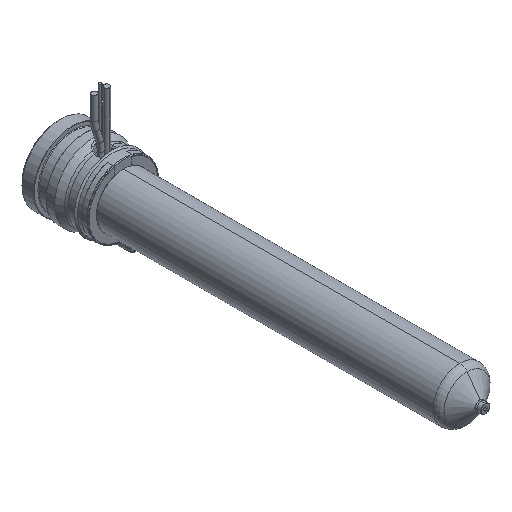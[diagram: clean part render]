
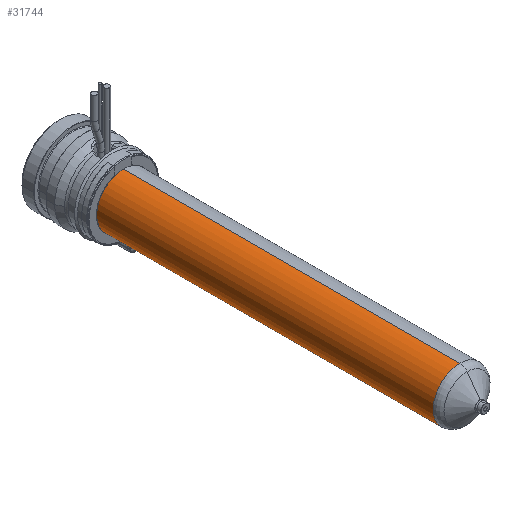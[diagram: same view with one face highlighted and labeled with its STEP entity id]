
A CAD part, isometric view. The second image highlights one B-rep face of the part: STEP entity #31744.
In plain terms, the highlighted cylindrical face has radius 9 mm (diameter 18 mm), a partial arc.
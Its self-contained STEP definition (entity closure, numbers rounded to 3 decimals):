
#31308=CARTESIAN_POINT('',(0.,-135.471,0.));
#31309=DIRECTION('',(0.,-1.,0.));
#31310=DIRECTION('',(0.,0.,1.));
#31311=AXIS2_PLACEMENT_3D('',#31308,#31309,#31310);
#31340=DIRECTION('',(0.,-1.,0.));
#31341=VECTOR('',#31340,113.471);
#31342=CARTESIAN_POINT('',(0.,-22.,9.));
#31343=LINE('',#31342,#31341);
#31355=DIRECTION('',(0.,-1.,0.));
#31356=VECTOR('',#31355,113.471);
#31357=CARTESIAN_POINT('',(0.,-22.,-9.));
#31358=LINE('',#31357,#31356);
#31362=CARTESIAN_POINT('',(0.,-22.,0.));
#31363=DIRECTION('',(0.,-1.,0.));
#31364=DIRECTION('',(0.,0.,1.));
#31365=AXIS2_PLACEMENT_3D('',#31362,#31363,#31364);
#31560=CARTESIAN_POINT('',(0.,-22.,9.));
#31561=CARTESIAN_POINT('',(0.,-135.471,9.));
#31562=VERTEX_POINT('',#31560);
#31563=VERTEX_POINT('',#31561);
#31572=CARTESIAN_POINT('',(0.,-22.,-9.));
#31573=CARTESIAN_POINT('',(0.,-135.471,-9.));
#31574=VERTEX_POINT('',#31572);
#31575=VERTEX_POINT('',#31573);
#31732=CARTESIAN_POINT('',(0.,-11.7,0.));
#31733=DIRECTION('',(0.,-1.,0.));
#31734=DIRECTION('',(0.,0.,1.));
#31735=AXIS2_PLACEMENT_3D('',#31732,#31733,#31734);
#31736=CYLINDRICAL_SURFACE('',#31735,9.);
#31737=ORIENTED_EDGE('',*,*,#31722,.T.);
#31738=ORIENTED_EDGE('',*,*,#31699,.T.);
#31739=ORIENTED_EDGE('',*,*,#31726,.F.);
#31741=ORIENTED_EDGE('',*,*,#31740,.F.);
#31742=EDGE_LOOP('',(#31737,#31738,#31739,#31741));
#31743=FACE_OUTER_BOUND('',#31742,.F.);
#31744=ADVANCED_FACE('',(#31743),#31736,.T.);
#31312=CIRCLE('',#31311,9.);
#31366=CIRCLE('',#31365,9.);
#31699=EDGE_CURVE('',#31563,#31575,#31312,.T.);
#31722=EDGE_CURVE('',#31562,#31563,#31343,.T.);
#31726=EDGE_CURVE('',#31574,#31575,#31358,.T.);
#31740=EDGE_CURVE('',#31562,#31574,#31366,.T.);
